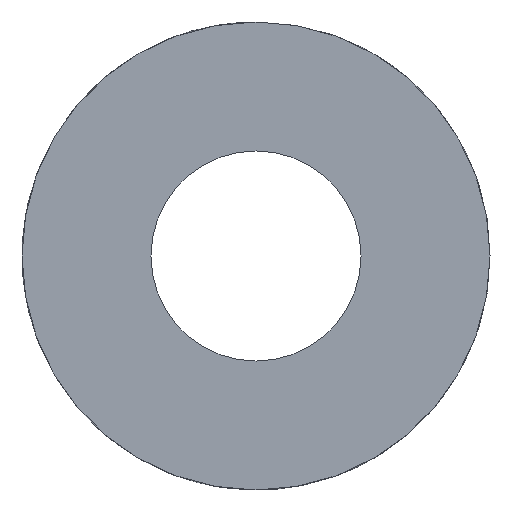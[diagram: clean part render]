
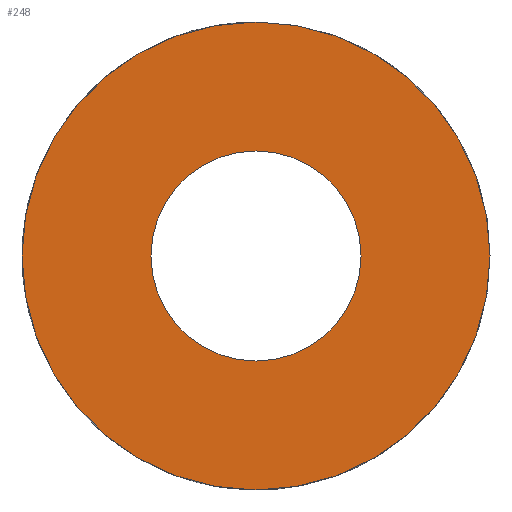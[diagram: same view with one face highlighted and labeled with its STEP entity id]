
A CAD part, front view. The second image highlights one B-rep face of the part: STEP entity #248.
In plain terms, the highlighted planar face has unit normal (0, -1, 0).
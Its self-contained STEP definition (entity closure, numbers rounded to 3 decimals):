
#78 = CYLINDRICAL_SURFACE('',#79,2.45);
#79 = AXIS2_PLACEMENT_3D('',#80,#81,#82);
#80 = CARTESIAN_POINT('',(55.,19.,0.));
#81 = DIRECTION('',(0.,1.,0.));
#82 = DIRECTION('',(0.,-0.,1.));
#199 = VERTEX_POINT('',#200);
#200 = CARTESIAN_POINT('',(55.,19.,2.45));
#221 = EDGE_CURVE('',#199,#199,#222,.T.);
#222 = SURFACE_CURVE('',#223,(#228,#235),.PCURVE_S1.);
#223 = CIRCLE('',#224,2.45);
#224 = AXIS2_PLACEMENT_3D('',#225,#226,#227);
#225 = CARTESIAN_POINT('',(55.,19.,0.));
#226 = DIRECTION('',(0.,1.,0.));
#227 = DIRECTION('',(0.,-0.,1.));
#228 = PCURVE('',#78,#229);
#229 = DEFINITIONAL_REPRESENTATION('',(#230),#234);
#230 = LINE('',#231,#232);
#231 = CARTESIAN_POINT('',(0.,0.));
#232 = VECTOR('',#233,1.);
#233 = DIRECTION('',(1.,0.));
#234 = ( GEOMETRIC_REPRESENTATION_CONTEXT(2) 
PARAMETRIC_REPRESENTATION_CONTEXT() REPRESENTATION_CONTEXT('2D SPACE',''
  ) );
#235 = PCURVE('',#236,#241);
#236 = PLANE('',#237);
#237 = AXIS2_PLACEMENT_3D('',#238,#239,#240);
#238 = CARTESIAN_POINT('',(55.,19.,0.));
#239 = DIRECTION('',(0.,1.,0.));
#240 = DIRECTION('',(0.,-0.,1.));
#241 = DEFINITIONAL_REPRESENTATION('',(#242),#246);
#242 = CIRCLE('',#243,2.45);
#243 = AXIS2_PLACEMENT_2D('',#244,#245);
#244 = CARTESIAN_POINT('',(0.,0.));
#245 = DIRECTION('',(1.,0.));
#246 = ( GEOMETRIC_REPRESENTATION_CONTEXT(2) 
PARAMETRIC_REPRESENTATION_CONTEXT() REPRESENTATION_CONTEXT('2D SPACE',''
  ) );
#248 = ADVANCED_FACE('',(#249,#252),#236,.F.);
#249 = FACE_BOUND('',#250,.F.);
#250 = EDGE_LOOP('',(#251));
#251 = ORIENTED_EDGE('',*,*,#221,.T.);
#252 = FACE_BOUND('',#253,.F.);
#253 = EDGE_LOOP('',(#254));
#254 = ORIENTED_EDGE('',*,*,#255,.F.);
#255 = EDGE_CURVE('',#256,#256,#258,.T.);
#256 = VERTEX_POINT('',#257);
#257 = CARTESIAN_POINT('',(55.,19.,1.1));
#258 = SURFACE_CURVE('',#259,(#264,#271),.PCURVE_S1.);
#259 = CIRCLE('',#260,1.1);
#260 = AXIS2_PLACEMENT_3D('',#261,#262,#263);
#261 = CARTESIAN_POINT('',(55.,19.,0.));
#262 = DIRECTION('',(0.,1.,0.));
#263 = DIRECTION('',(0.,-0.,1.));
#264 = PCURVE('',#236,#265);
#265 = DEFINITIONAL_REPRESENTATION('',(#266),#270);
#266 = CIRCLE('',#267,1.1);
#267 = AXIS2_PLACEMENT_2D('',#268,#269);
#268 = CARTESIAN_POINT('',(0.,0.));
#269 = DIRECTION('',(1.,0.));
#270 = ( GEOMETRIC_REPRESENTATION_CONTEXT(2) 
PARAMETRIC_REPRESENTATION_CONTEXT() REPRESENTATION_CONTEXT('2D SPACE',''
  ) );
#271 = PCURVE('',#272,#277);
#272 = CYLINDRICAL_SURFACE('',#273,1.1);
#273 = AXIS2_PLACEMENT_3D('',#274,#275,#276);
#274 = CARTESIAN_POINT('',(55.,18.,0.));
#275 = DIRECTION('',(0.,1.,0.));
#276 = DIRECTION('',(0.,-0.,1.));
#277 = DEFINITIONAL_REPRESENTATION('',(#278),#282);
#278 = LINE('',#279,#280);
#279 = CARTESIAN_POINT('',(0.,1.));
#280 = VECTOR('',#281,1.);
#281 = DIRECTION('',(1.,0.));
#282 = ( GEOMETRIC_REPRESENTATION_CONTEXT(2) 
PARAMETRIC_REPRESENTATION_CONTEXT() REPRESENTATION_CONTEXT('2D SPACE',''
  ) );
